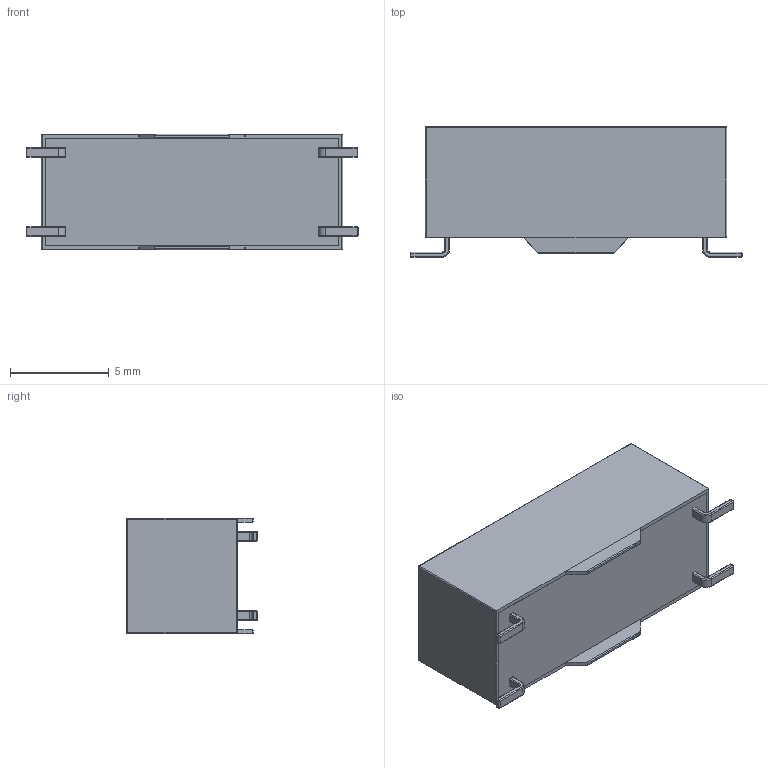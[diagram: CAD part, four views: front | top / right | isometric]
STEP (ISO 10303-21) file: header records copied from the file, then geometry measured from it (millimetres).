
FILE_DESCRIPTION (( 'STEP AP203' ), '1' );
FILE_NAME ('200-1-B.STEP', '2010-06-29T12:21:24', ( ' ' ), ( '' ), 'SwSTEP 2.0', 'SolidWorks 2009', '' );
FILE_SCHEMA (( 'CONFIG_CONTROL_DESIGN' ));
Length unit declared in the file: inch
Products named in the file (4): 200-1-B; 200-1-B shell; 200-1-B internal; 200 series pin
Assembly tree (6 placements, depth 2):
  200-1-B
    200 series pin  x4
    200-1-B shell
    200-1-B internal
Bounding box: 16.8 x 6.6 x 5.85 mm (x, y, z)
Volume: 502.3 mm3; surface area: 1044.1 mm2
Topology: 6 solids, 6 shells, 429 faces, 1059 edges, 658 vertices
Faces by surface type: plane 235, cylinder 96, bspline 62, sphere 20, torus 16
Entity records: 14335 total; most frequent: CARTESIAN_POINT 6340, ORIENTED_EDGE 1658, DIRECTION 1315, EDGE_CURVE 829, VECTOR 609, LINE 609, VERTEX_POINT 538, EDGE_LOOP 363
